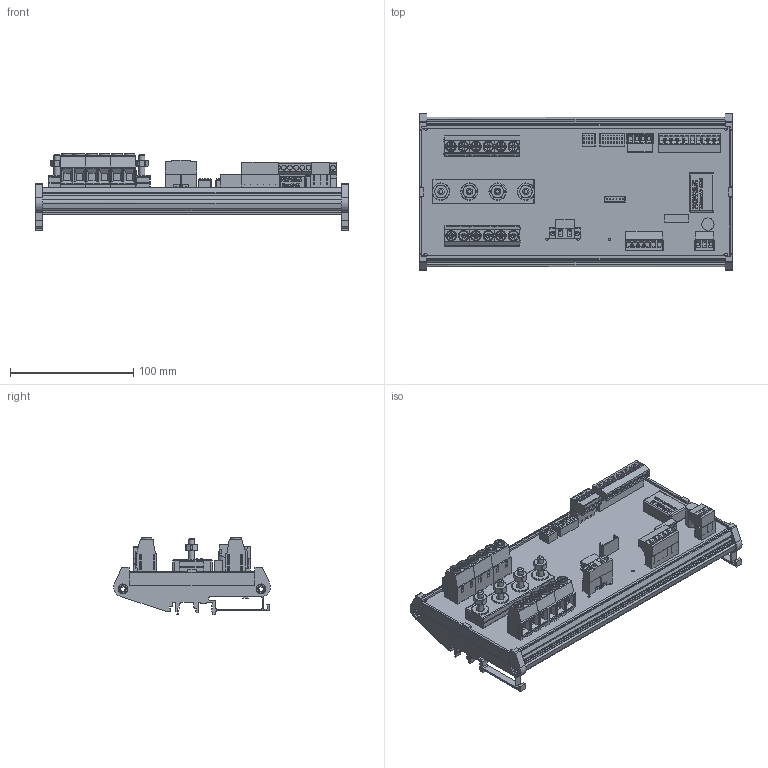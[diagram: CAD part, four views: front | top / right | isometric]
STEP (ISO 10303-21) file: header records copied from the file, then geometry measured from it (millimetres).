
FILE_DESCRIPTION(('FreeCAD Model'),'2;1');
FILE_NAME('C:/3D Files/Stringhe/ST2N/ST2N1240/ST2N1240.step', '2021-02-19T15:18:14',('Author'),(''), 'Open CASCADE STEP processor 7.2','FreeCAD','Unknown');
FILE_SCHEMA(('AUTOMOTIVE_DESIGN { 1 0 10303 214 1 1 1 1 }'));
Length unit declared in the file: millimetre
Products named in the file (40): ST2N1240; Mstb_3P_F; Mstb_6P_F; Mstb_3Pc_M; Mstb_6Pc_M; AmpModu_6P_M; DipSwitch8; DipSwitch4; Stampato; Dado6MA003; Dado6MA004; Dado6MA005; Dado6MA006; Rondella6; Rondella007; Rondella008; Rondella009; CH_01-02; CH_03-04; CH_05-06; CH_07-08; CH_09-10; CH_11-12; CN3_M; Profilo_254x128; Mstb_10Pc_M; Mstb_10P_F; CN3_F; Mstb_4Pc_M; Mstb_4P_F; IB2405LS-1W; WRB2403ZP-6WR003; ELNA_470_uF_35_V; VTBSE-6x35; VTBSE-6x031; VTBSE-6x032; VTBSE-6x033; Barra_8.2a_cm; Barra_8.2a_cm001; Barra_8.2a_cm002
Assembly tree (39 placements, depth 2):
  ST2N1240
    Mstb_3P_F
    Mstb_6P_F
    Mstb_3Pc_M
    Mstb_6Pc_M
    AmpModu_6P_M
    DipSwitch8
    DipSwitch4
    Stampato
    Dado6MA003
    Dado6MA004
    Dado6MA005
    Dado6MA006
    Rondella6
    Rondella007
    Rondella008
    Rondella009
    CH_01-02
    CH_03-04
    CH_05-06
    CH_07-08
    CH_09-10
    CH_11-12
    CN3_M
    Profilo_254x128
    Mstb_10Pc_M
    Mstb_10P_F
    CN3_F
    Mstb_4Pc_M
    Mstb_4P_F
    IB2405LS-1W
    WRB2403ZP-6WR003
    ELNA_470_uF_35_V
    VTBSE-6x35
    VTBSE-6x031
    VTBSE-6x032
    VTBSE-6x033
    Barra_8.2a_cm
    Barra_8.2a_cm001
    Barra_8.2a_cm002
Bounding box: 254 x 127.59 x 63.19 mm (x, y, z)
Volume: 257303.6 mm3; surface area: 266365.4 mm2
Topology: 67 solids, 106 shells, 4356 faces, 13627 edges, 14508 vertices
Faces by surface type: plane 3225, cylinder 715, bspline 217, cone 103, torus 54, sphere 40, extrusion 2
Full cylindrical faces by diameter (mm): 0.5 x4, 0.75 x36, 1 x10, 1.5 x19, 1.6 x6, 1.8 x2, 2.05 x2, 2.5 x2, 3.3 x2, 3.5 x2, 3.8 x2, 4 x27, 4.3 x2, 4.917 x4, 5 x8, 6.6 x4, 7 x12, 7.2 x12, 7.5 x12, 7.9 x4, 8.66 x12, 9.202 x2, 10 x5, 14 x4
Entity records: 346043 total; most frequent: CARTESIAN_POINT 78103, DIRECTION 42341, VECTOR 28257, LINE 28255, ORIENTED_EDGE 23079, PCURVE 23079, DEFINITIONAL_REPRESENTATION 23079, EDGE_CURVE 11902
